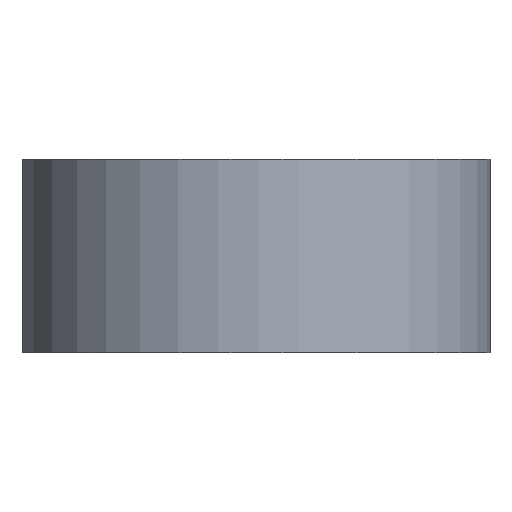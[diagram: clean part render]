
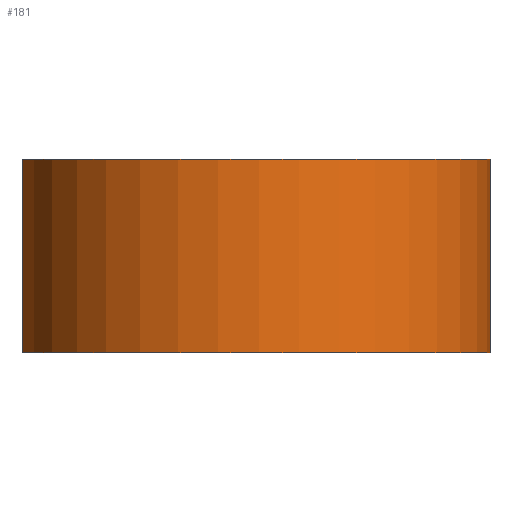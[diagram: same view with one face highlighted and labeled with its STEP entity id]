
A CAD part, left-side view. The second image highlights one B-rep face of the part: STEP entity #181.
In plain terms, the highlighted cylindrical face has radius 4.9 mm (diameter 9.8 mm), a partial arc.
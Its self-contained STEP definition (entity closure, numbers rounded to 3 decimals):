
#21 = EDGE_CURVE('',#22,#24,#26,.T.);
#22 = VERTEX_POINT('',#23);
#23 = CARTESIAN_POINT('',(47.375,15.547,30.25));
#24 = VERTEX_POINT('',#25);
#25 = CARTESIAN_POINT('',(53.275,10.75,30.25));
#26 = CIRCLE('',#27,4.9);
#27 = AXIS2_PLACEMENT_3D('',#28,#29,#30);
#28 = CARTESIAN_POINT('',(48.375,10.75,30.25));
#29 = DIRECTION('',(0.,0.,1.));
#30 = DIRECTION('',(1.,0.,-0.));
#32 = EDGE_CURVE('',#24,#33,#35,.T.);
#33 = VERTEX_POINT('',#34);
#34 = CARTESIAN_POINT('',(49.375,15.547,30.25));
#35 = CIRCLE('',#36,4.9);
#36 = AXIS2_PLACEMENT_3D('',#37,#38,#39);
#37 = CARTESIAN_POINT('',(48.375,10.75,30.25));
#38 = DIRECTION('',(0.,0.,1.));
#39 = DIRECTION('',(1.,0.,-0.));
#82 = EDGE_CURVE('',#22,#83,#85,.T.);
#83 = VERTEX_POINT('',#84);
#84 = CARTESIAN_POINT('',(47.375,15.547,34.25));
#85 = LINE('',#86,#87);
#86 = CARTESIAN_POINT('',(47.375,15.547,30.25));
#87 = VECTOR('',#88,1.);
#88 = DIRECTION('',(0.,0.,1.));
#112 = EDGE_CURVE('',#83,#113,#115,.T.);
#113 = VERTEX_POINT('',#114);
#114 = CARTESIAN_POINT('',(53.275,10.75,34.25));
#115 = CIRCLE('',#116,4.9);
#116 = AXIS2_PLACEMENT_3D('',#117,#118,#119);
#117 = CARTESIAN_POINT('',(48.375,10.75,34.25));
#118 = DIRECTION('',(0.,0.,1.));
#119 = DIRECTION('',(1.,0.,-0.));
#121 = EDGE_CURVE('',#113,#122,#124,.T.);
#122 = VERTEX_POINT('',#123);
#123 = CARTESIAN_POINT('',(49.375,15.547,34.25));
#124 = CIRCLE('',#125,4.9);
#125 = AXIS2_PLACEMENT_3D('',#126,#127,#128);
#126 = CARTESIAN_POINT('',(48.375,10.75,34.25));
#127 = DIRECTION('',(0.,0.,1.));
#128 = DIRECTION('',(1.,0.,-0.));
#164 = EDGE_CURVE('',#33,#122,#165,.T.);
#165 = LINE('',#166,#167);
#166 = CARTESIAN_POINT('',(49.375,15.547,30.25));
#167 = VECTOR('',#168,1.);
#168 = DIRECTION('',(0.,0.,1.));
#181 = ADVANCED_FACE('',(#182),#190,.T.);
#182 = FACE_BOUND('',#183,.T.);
#183 = EDGE_LOOP('',(#184,#185,#186,#187,#188,#189));
#184 = ORIENTED_EDGE('',*,*,#32,.T.);
#185 = ORIENTED_EDGE('',*,*,#164,.T.);
#186 = ORIENTED_EDGE('',*,*,#121,.F.);
#187 = ORIENTED_EDGE('',*,*,#112,.F.);
#188 = ORIENTED_EDGE('',*,*,#82,.F.);
#189 = ORIENTED_EDGE('',*,*,#21,.T.);
#190 = CYLINDRICAL_SURFACE('',#191,4.9);
#191 = AXIS2_PLACEMENT_3D('',#192,#193,#194);
#192 = CARTESIAN_POINT('',(48.375,10.75,30.25));
#193 = DIRECTION('',(0.,0.,1.));
#194 = DIRECTION('',(1.,0.,-0.));
